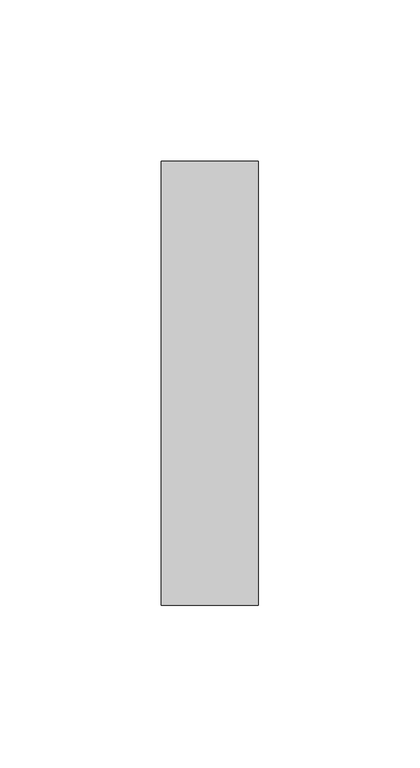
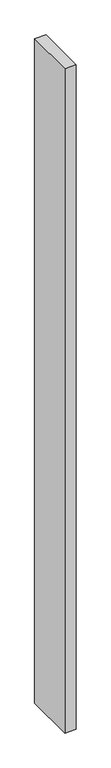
"""IFC4 building model written with IfcOpenShell, lengths in millimetres: furniture geometry, Divisoria_Lateral Fechada : Divisoria_Lateral Fechada_130x180."""

import ifcopenshell
import ifcopenshell.guid

model = None  # the IFC model being written
_history = None  # IfcOwnerHistory: only IFC2X3 demands one
_inside = {}  # id of a spatial element -> (the spatial element, [elements in it])
_under = {}  # id of a project, library or spatial element -> (it, [spatial elements below it])
_declared = {}  # id of a project -> (the project, [libraries it declares])
_typed = {}  # id of a type object -> (the type object, [elements of that type])
_made_of = {}  # id of a material, layer set ... -> (it, [elements and type objects made of it])


def new_model(schema):
    """Start an empty IFC model of exactly this schema.

    Asked for "IFC4X3", IfcOpenShell would pick the latest addendum, in which some entities
    have other attributes; the version numbers below select the first issue.
    IFC2X3 requires an IfcOwnerHistory on every rooted entity: one is made here for all.
    """
    global model, _history
    if schema == "IFC4X3":
        model = ifcopenshell.file(schema_version=(4, 3, 0, 0))
    else:
        model = ifcopenshell.file(schema=schema)
    _inside.clear()
    _under.clear()
    _declared.clear()
    _typed.clear()
    _made_of.clear()
    _history = None
    if model.schema == "IFC2X3":
        org = make("IfcOrganization", Name="unknown")
        user = make(
            "IfcPersonAndOrganization",
            ThePerson=make("IfcPerson", FamilyName="unknown"),
            TheOrganization=org,
        )
        app = make(
            "IfcApplication",
            ApplicationDeveloper=org,
            Version="unknown",
            ApplicationFullName="unknown",
            ApplicationIdentifier="unknown",
        )
        _history = make(
            "IfcOwnerHistory",
            OwningUser=user,
            OwningApplication=app,
            ChangeAction="ADDED",
            CreationDate=0,
        )
    return model


def make(cls, **values):
    """One entity of the class cls with the attributes given. An attribute that is None is left unset."""
    return model.create_entity(
        cls, **{name: value for name, value in values.items() if value is not None}
    )


def rooted(cls, **values):
    """An entity with a GlobalId (a new one), such as an element, a storey or a relation."""
    return make(cls, GlobalId=ifcopenshell.guid.new(), OwnerHistory=_history, **values)


def si_unit(unit_type, name, prefix=None):
    """IfcSIUnit, for example si_unit("LENGTHUNIT", "METRE", prefix="MILLI")."""
    return make("IfcSIUnit", UnitType=unit_type, Prefix=prefix, Name=name)


def assignment(units):
    """IfcUnitAssignment: the units of a project."""
    return None if units is None else make("IfcUnitAssignment", Units=units)


def point(xyz):
    """IfcCartesianPoint."""
    return None if xyz is None else make("IfcCartesianPoint", Coordinates=xyz)


def direction(xyz):
    """IfcDirection."""
    return None if xyz is None else make("IfcDirection", DirectionRatios=xyz)


def frame(location, z_axis=None, x_axis=None):
    """IfcAxis2Placement3D, a coordinate frame: its origin and axes. An axis left out is left unset."""
    return make(
        "IfcAxis2Placement3D",
        Location=point(location),
        Axis=direction(z_axis),
        RefDirection=direction(x_axis),
    )


def origin():
    """The frame at (0, 0, 0) with its axes left unset."""
    return frame((0.0, 0.0, 0.0))


def place(relative_to, where):
    """IfcLocalPlacement: puts the frame where relative to a parent placement (None: the world)."""
    return make(
        "IfcLocalPlacement", PlacementRelTo=relative_to, RelativePlacement=where
    )


def context(
    kind, dimensions, precision=None, world=None, true_north=None, identifier=None
):
    """IfcGeometricRepresentationContext, for example the 3D "Model" context."""
    return make(
        "IfcGeometricRepresentationContext",
        ContextIdentifier=identifier,
        ContextType=kind,
        CoordinateSpaceDimension=dimensions,
        Precision=precision,
        WorldCoordinateSystem=world,
        TrueNorth=true_north,
    )


def project(units=None, contexts=None):
    """IfcProject with its units and contexts."""
    return rooted(
        "IfcProject",
        Name="project",
        RepresentationContexts=contexts,
        UnitsInContext=assignment(units),
    )


def spatial(cls, under=None, at=None, **own):
    """A site, building, storey or space (cls), placed at a placement, below another one or the project."""
    s = rooted(cls, ObjectPlacement=at, **own)
    if under is not None:
        _under.setdefault(under.id(), (under, []))[1].append(s)
    return s


def polyline(points):
    """IfcPolyline through the points."""
    return make("IfcPolyline", Points=[point(p) for p in points])


def outline(outer, holes=None, kind="AREA"):
    """IfcArbitraryClosedProfileDef: a profile drawn as a closed curve; with holes, ...WithVoids."""
    if holes is None:
        return make("IfcArbitraryClosedProfileDef", ProfileType=kind, OuterCurve=outer)
    return make(
        "IfcArbitraryProfileDefWithVoids",
        ProfileType=kind,
        OuterCurve=outer,
        InnerCurves=holes,
    )


def extrude(swept, where, along, depth):
    """IfcExtrudedAreaSolid: the profile swept, set in the frame where, extruded along a direction by depth."""
    return make(
        "IfcExtrudedAreaSolid",
        SweptArea=swept,
        Position=where,
        ExtrudedDirection=direction(along),
        Depth=depth,
    )


def shape(context_of_items, identifier, shape_type, items):
    """IfcShapeRepresentation: the items that make up one representation, for example the "Body"."""
    return make(
        "IfcShapeRepresentation",
        ContextOfItems=context_of_items,
        RepresentationIdentifier=identifier,
        RepresentationType=shape_type,
        Items=items,
    )


def source(mapping_origin, context_of_items, identifier, shape_type, items):
    """IfcRepresentationMap: a shape defined once, which mapped items show again and again."""
    return make(
        "IfcRepresentationMap",
        MappingOrigin=mapping_origin,
        MappedRepresentation=shape(context_of_items, identifier, shape_type, items),
    )


def transform(
    local_origin,
    x_axis=None,
    y_axis=None,
    z_axis=None,
    scale=None,
    scale2=None,
    scale3=None,
    uniform=True,
):
    """IfcCartesianTransformationOperator3D, or its non-uniform kind. x_axis, y_axis, z_axis: its Axis1, 2, 3."""
    if uniform:
        return make(
            "IfcCartesianTransformationOperator3D",
            Axis1=direction(x_axis),
            Axis2=direction(y_axis),
            LocalOrigin=point(local_origin),
            Scale=scale,
            Axis3=direction(z_axis),
        )
    return make(
        "IfcCartesianTransformationOperator3DnonUniform",
        Axis1=direction(x_axis),
        Axis2=direction(y_axis),
        LocalOrigin=point(local_origin),
        Scale=scale,
        Axis3=direction(z_axis),
        Scale2=scale2,
        Scale3=scale3,
    )


def mapped(mapping_source, mapping_target):
    """IfcMappedItem: shows the shape of a source again, moved by a transform."""
    return make(
        "IfcMappedItem", MappingSource=mapping_source, MappingTarget=mapping_target
    )


def made_of(thing, what):
    """Note that an element or type object is made of a material, layer set ...; save() writes the relation."""
    if what is not None:
        _made_of.setdefault(what.id(), (what, []))[1].append(thing)
    return thing


def element(
    cls,
    number,
    at=None,
    inside=None,
    cuts=None,
    type_object=None,
    material=None,
    context=None,
    identifier="Body",
    shape_type=None,
    held_by="IfcProductDefinitionShape",
    body=None,
    shapes=None,
    **own,
):
    """One element of the class cls, such as IfcWall. Its Tag is "e" and its number.

    at: its placement. inside: the storey or other place that contains it. cuts: it is an
    opening in that element (IfcRelVoidsElement). A single representation is given by context,
    identifier, shape_type and body (its items); several are given by shapes. held_by: the class
    of the entity that holds the representations. save() writes the other relations.
    """
    e = rooted(cls, Tag="e%d" % number, ObjectPlacement=at, **own)
    if body is not None:
        shapes = [shape(context, identifier, shape_type, body)]
    if shapes is not None:
        e.Representation = make(held_by, Representations=shapes)
    if inside is not None:
        _inside.setdefault(inside.id(), (inside, []))[1].append(e)
    if cuts is not None:
        rooted(
            "IfcRelVoidsElement", RelatingBuildingElement=cuts, RelatedOpeningElement=e
        )
    if type_object is not None:
        _typed.setdefault(type_object.id(), (type_object, []))[1].append(e)
    return made_of(e, material)


def aggregate(whole, parts):
    """IfcRelAggregates: a whole, such as a stair, and the parts it consists of."""
    return rooted("IfcRelAggregates", RelatingObject=whole, RelatedObjects=parts)


def save(model, path):
    """Write the relations noted so far, then the file.

    IfcRelAggregates (storeys below a building ...), IfcRelContainedInSpatialStructure (elements
    in a storey), IfcRelDefinesByType, IfcRelAssociatesMaterial and IfcRelDeclares: one each for
    every whole, place, type object, material and project.
    """
    for whole, parts in _under.values():
        aggregate(whole, parts)
    for where, things in _inside.values():
        rooted(
            "IfcRelContainedInSpatialStructure",
            RelatedElements=things,
            RelatingStructure=where,
        )
    for kind, things in _typed.values():
        rooted("IfcRelDefinesByType", RelatedObjects=things, RelatingType=kind)
    for what, things in _made_of.values():
        rooted("IfcRelAssociatesMaterial", RelatedObjects=things, RelatingMaterial=what)
    for by, libraries in _declared.values():
        rooted("IfcRelDeclares", RelatingContext=by, RelatedDefinitions=libraries)
    model.write(path)


def furniture_6b89a1b1(model_context):
    return source(origin(), model_context, "Body", "SweptSolid", [
        extrude(outline(polyline([(59.7003264, 50.0), (59.7003264, -87.4974815), (29.7003264, -87.4974815), (29.7003264, 50.0), (59.7003264, 50.0)])), frame((0.0, 0.0, 50.0), z_axis=(0.0, 0.0, 1.0), x_axis=(1.0, 0.0, 0.0)), (0.0, 0.0, 1.0), 1850.0),
    ])


if __name__ == "__main__":
    model = new_model("IFC4")
    model_context = context("Model", 3, world=origin())
    ifc_project = project(units=[si_unit("LENGTHUNIT", "METRE", prefix="MILLI")], contexts=[model_context])
    site = spatial("IfcSite", under=ifc_project)
    building = spatial("IfcBuilding", under=site)
    placement = place(None, origin())
    furniture_shape = furniture_6b89a1b1(model_context)
    element("IfcFurniture", 1, ObjectType="Divisoria_Lateral Fechada : Divisoria_Lateral Fechada_130x180", at=placement, inside=building, context=model_context, shape_type="MappedRepresentation", body=[
        mapped(furniture_shape, transform((0.0, 0.0, 0.0), x_axis=(1.0, 0.0, 0.0), y_axis=(0.0, 1.0, 0.0), z_axis=(0.0, 0.0, 1.0))),
    ])
    save(model, "model.ifc")
